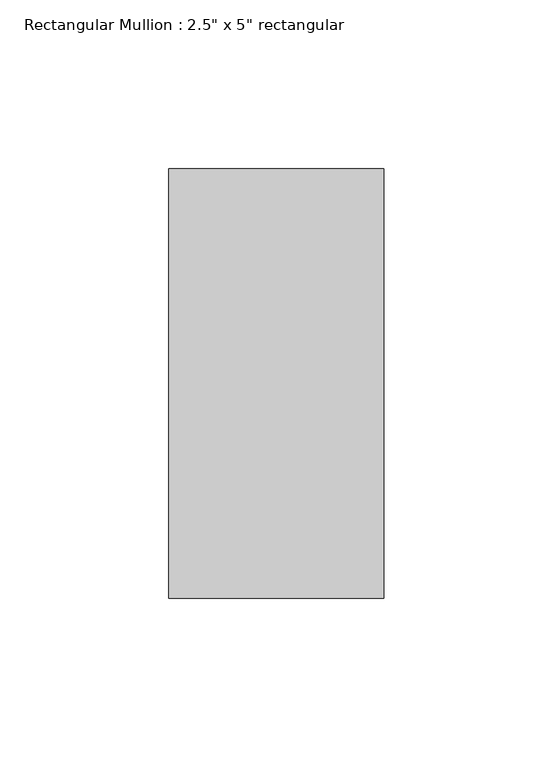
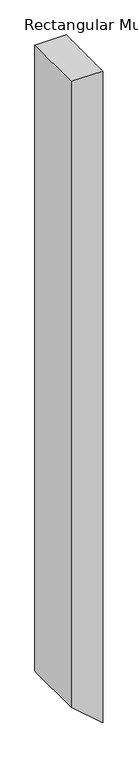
"""IFC4 building model written with IfcOpenShell, lengths in millimetres: member geometry."""

import ifcopenshell
import ifcopenshell.guid

model = None  # the IFC model being written
_history = None  # IfcOwnerHistory: only IFC2X3 demands one
_inside = {}  # id of a spatial element -> (the spatial element, [elements in it])
_under = {}  # id of a project, library or spatial element -> (it, [spatial elements below it])
_declared = {}  # id of a project -> (the project, [libraries it declares])
_typed = {}  # id of a type object -> (the type object, [elements of that type])
_made_of = {}  # id of a material, layer set ... -> (it, [elements and type objects made of it])


def new_model(schema):
    """Start an empty IFC model of exactly this schema.

    Asked for "IFC4X3", IfcOpenShell would pick the latest addendum, in which some entities
    have other attributes; the version numbers below select the first issue.
    IFC2X3 requires an IfcOwnerHistory on every rooted entity: one is made here for all.
    """
    global model, _history
    if schema == "IFC4X3":
        model = ifcopenshell.file(schema_version=(4, 3, 0, 0))
    else:
        model = ifcopenshell.file(schema=schema)
    _inside.clear()
    _under.clear()
    _declared.clear()
    _typed.clear()
    _made_of.clear()
    _history = None
    if model.schema == "IFC2X3":
        org = make("IfcOrganization", Name="unknown")
        user = make(
            "IfcPersonAndOrganization",
            ThePerson=make("IfcPerson", FamilyName="unknown"),
            TheOrganization=org,
        )
        app = make(
            "IfcApplication",
            ApplicationDeveloper=org,
            Version="unknown",
            ApplicationFullName="unknown",
            ApplicationIdentifier="unknown",
        )
        _history = make(
            "IfcOwnerHistory",
            OwningUser=user,
            OwningApplication=app,
            ChangeAction="ADDED",
            CreationDate=0,
        )
    return model


def make(cls, **values):
    """One entity of the class cls with the attributes given. An attribute that is None is left unset."""
    return model.create_entity(
        cls, **{name: value for name, value in values.items() if value is not None}
    )


def rooted(cls, **values):
    """An entity with a GlobalId (a new one), such as an element, a storey or a relation."""
    return make(cls, GlobalId=ifcopenshell.guid.new(), OwnerHistory=_history, **values)


def si_unit(unit_type, name, prefix=None):
    """IfcSIUnit, for example si_unit("LENGTHUNIT", "METRE", prefix="MILLI")."""
    return make("IfcSIUnit", UnitType=unit_type, Prefix=prefix, Name=name)


def assignment(units):
    """IfcUnitAssignment: the units of a project."""
    return None if units is None else make("IfcUnitAssignment", Units=units)


def point(xyz):
    """IfcCartesianPoint."""
    return None if xyz is None else make("IfcCartesianPoint", Coordinates=xyz)


def direction(xyz):
    """IfcDirection."""
    return None if xyz is None else make("IfcDirection", DirectionRatios=xyz)


def frame(location, z_axis=None, x_axis=None):
    """IfcAxis2Placement3D, a coordinate frame: its origin and axes. An axis left out is left unset."""
    return make(
        "IfcAxis2Placement3D",
        Location=point(location),
        Axis=direction(z_axis),
        RefDirection=direction(x_axis),
    )


def origin():
    """The frame at (0, 0, 0) with its axes left unset."""
    return frame((0.0, 0.0, 0.0))


def place(relative_to, where):
    """IfcLocalPlacement: puts the frame where relative to a parent placement (None: the world)."""
    return make(
        "IfcLocalPlacement", PlacementRelTo=relative_to, RelativePlacement=where
    )


def context(
    kind, dimensions, precision=None, world=None, true_north=None, identifier=None
):
    """IfcGeometricRepresentationContext, for example the 3D "Model" context."""
    return make(
        "IfcGeometricRepresentationContext",
        ContextIdentifier=identifier,
        ContextType=kind,
        CoordinateSpaceDimension=dimensions,
        Precision=precision,
        WorldCoordinateSystem=world,
        TrueNorth=true_north,
    )


def project(units=None, contexts=None):
    """IfcProject with its units and contexts."""
    return rooted(
        "IfcProject",
        Name="project",
        RepresentationContexts=contexts,
        UnitsInContext=assignment(units),
    )


def spatial(cls, under=None, at=None, **own):
    """A site, building, storey or space (cls), placed at a placement, below another one or the project."""
    s = rooted(cls, ObjectPlacement=at, **own)
    if under is not None:
        _under.setdefault(under.id(), (under, []))[1].append(s)
    return s


def polyline(points):
    """IfcPolyline through the points."""
    return make("IfcPolyline", Points=[point(p) for p in points])


def outline(outer, holes=None, kind="AREA"):
    """IfcArbitraryClosedProfileDef: a profile drawn as a closed curve; with holes, ...WithVoids."""
    if holes is None:
        return make("IfcArbitraryClosedProfileDef", ProfileType=kind, OuterCurve=outer)
    return make(
        "IfcArbitraryProfileDefWithVoids",
        ProfileType=kind,
        OuterCurve=outer,
        InnerCurves=holes,
    )


def extrude(swept, where, along, depth):
    """IfcExtrudedAreaSolid: the profile swept, set in the frame where, extruded along a direction by depth."""
    return make(
        "IfcExtrudedAreaSolid",
        SweptArea=swept,
        Position=where,
        ExtrudedDirection=direction(along),
        Depth=depth,
    )


def shape(context_of_items, identifier, shape_type, items):
    """IfcShapeRepresentation: the items that make up one representation, for example the "Body"."""
    return make(
        "IfcShapeRepresentation",
        ContextOfItems=context_of_items,
        RepresentationIdentifier=identifier,
        RepresentationType=shape_type,
        Items=items,
    )


def source(mapping_origin, context_of_items, identifier, shape_type, items):
    """IfcRepresentationMap: a shape defined once, which mapped items show again and again."""
    return make(
        "IfcRepresentationMap",
        MappingOrigin=mapping_origin,
        MappedRepresentation=shape(context_of_items, identifier, shape_type, items),
    )


def transform(
    local_origin,
    x_axis=None,
    y_axis=None,
    z_axis=None,
    scale=None,
    scale2=None,
    scale3=None,
    uniform=True,
):
    """IfcCartesianTransformationOperator3D, or its non-uniform kind. x_axis, y_axis, z_axis: its Axis1, 2, 3."""
    if uniform:
        return make(
            "IfcCartesianTransformationOperator3D",
            Axis1=direction(x_axis),
            Axis2=direction(y_axis),
            LocalOrigin=point(local_origin),
            Scale=scale,
            Axis3=direction(z_axis),
        )
    return make(
        "IfcCartesianTransformationOperator3DnonUniform",
        Axis1=direction(x_axis),
        Axis2=direction(y_axis),
        LocalOrigin=point(local_origin),
        Scale=scale,
        Axis3=direction(z_axis),
        Scale2=scale2,
        Scale3=scale3,
    )


def mapped(mapping_source, mapping_target):
    """IfcMappedItem: shows the shape of a source again, moved by a transform."""
    return make(
        "IfcMappedItem", MappingSource=mapping_source, MappingTarget=mapping_target
    )


def made_of(thing, what):
    """Note that an element or type object is made of a material, layer set ...; save() writes the relation."""
    if what is not None:
        _made_of.setdefault(what.id(), (what, []))[1].append(thing)
    return thing


def element(
    cls,
    number,
    at=None,
    inside=None,
    cuts=None,
    type_object=None,
    material=None,
    context=None,
    identifier="Body",
    shape_type=None,
    held_by="IfcProductDefinitionShape",
    body=None,
    shapes=None,
    **own,
):
    """One element of the class cls, such as IfcWall. Its Tag is "e" and its number.

    at: its placement. inside: the storey or other place that contains it. cuts: it is an
    opening in that element (IfcRelVoidsElement). A single representation is given by context,
    identifier, shape_type and body (its items); several are given by shapes. held_by: the class
    of the entity that holds the representations. save() writes the other relations.
    """
    e = rooted(cls, Tag="e%d" % number, ObjectPlacement=at, **own)
    if body is not None:
        shapes = [shape(context, identifier, shape_type, body)]
    if shapes is not None:
        e.Representation = make(held_by, Representations=shapes)
    if inside is not None:
        _inside.setdefault(inside.id(), (inside, []))[1].append(e)
    if cuts is not None:
        rooted(
            "IfcRelVoidsElement", RelatingBuildingElement=cuts, RelatedOpeningElement=e
        )
    if type_object is not None:
        _typed.setdefault(type_object.id(), (type_object, []))[1].append(e)
    return made_of(e, material)


def aggregate(whole, parts):
    """IfcRelAggregates: a whole, such as a stair, and the parts it consists of."""
    return rooted("IfcRelAggregates", RelatingObject=whole, RelatedObjects=parts)


def save(model, path):
    """Write the relations noted so far, then the file.

    IfcRelAggregates (storeys below a building ...), IfcRelContainedInSpatialStructure (elements
    in a storey), IfcRelDefinesByType, IfcRelAssociatesMaterial and IfcRelDeclares: one each for
    every whole, place, type object, material and project.
    """
    for whole, parts in _under.values():
        aggregate(whole, parts)
    for where, things in _inside.values():
        rooted(
            "IfcRelContainedInSpatialStructure",
            RelatedElements=things,
            RelatingStructure=where,
        )
    for kind, things in _typed.values():
        rooted("IfcRelDefinesByType", RelatedObjects=things, RelatingType=kind)
    for what, things in _made_of.values():
        rooted("IfcRelAssociatesMaterial", RelatedObjects=things, RelatingMaterial=what)
    for by, libraries in _declared.values():
        rooted("IfcRelDeclares", RelatingContext=by, RelatedDefinitions=libraries)
    model.write(path)


def member_08a9fe97(model_context):
    return source(origin(), model_context, "Body", "SweptSolid", [
        extrude(outline(polyline([(0.0, 0.0), (0.0, -63.5), (-1333.5283625, -63.5), (-1388.0447167, 0.0), (0.0, 0.0)])), frame((0.0, -63.5, 0.0), z_axis=(0.0, 1.0, 0.0), x_axis=(0.0, 0.0, 1.0)), (0.0, 0.0, 1.0), 127.0),
    ])


if __name__ == "__main__":
    model = new_model("IFC4")
    model_context = context("Model", 3, world=origin())
    ifc_project = project(units=[si_unit("LENGTHUNIT", "METRE", prefix="MILLI")], contexts=[model_context])
    site = spatial("IfcSite", under=ifc_project)
    building = spatial("IfcBuilding", under=site)
    placement = place(None, origin())
    member_shape = member_08a9fe97(model_context)
    element("IfcMember", 1, ObjectType="Rectangular Mullion : 2.5\" x 5\" rectangular", at=placement, inside=building, context=model_context, shape_type="MappedRepresentation", body=[
        mapped(member_shape, transform((0.0, 0.0, 0.0), x_axis=(1.0, 0.0, 0.0), y_axis=(0.0, 1.0, 0.0), z_axis=(0.0, 0.0, 1.0))),
    ])
    save(model, "model.ifc")
